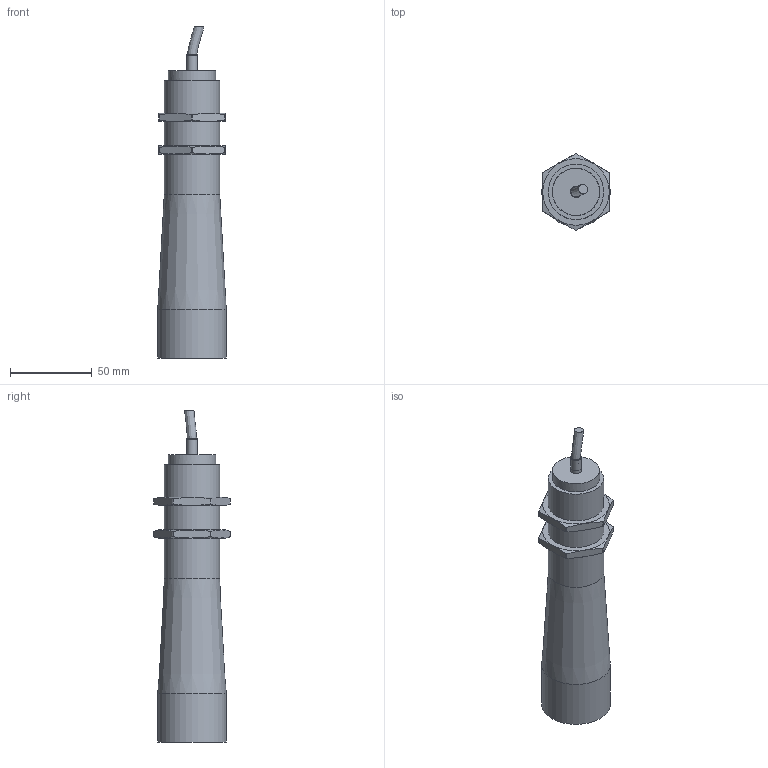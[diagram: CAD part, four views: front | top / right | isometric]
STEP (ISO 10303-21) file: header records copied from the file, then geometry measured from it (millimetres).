
FILE_DESCRIPTION((''),'2;1');
FILE_NAME('Q:\Konstruktion\E-Mail-Zeichnungen\STEP\KL-M34_42_111_00.stp','2010-09-20T11:32:44',('GuentherB'),(''),'Autodesk Inventor 2009','Autodesk Inventor 2009','');
FILE_SCHEMA(('AUTOMOTIVE_DESIGN { 1 0 10303 214 1 1 1 1 }'));
Length unit declared in the file: millimetre
Products named in the file (1): Bauteil3
Bounding box: 42 x 47.03 x 203.53 mm (x, y, z)
Volume: 194135.2 mm3; surface area: 28407.5 mm2
Topology: 2 solids, 2 shells, 65 faces, 153 edges, 103 vertices
Faces by surface type: plane 29, cylinder 23, cone 8, bspline 5
Full cylindrical faces by diameter (mm): 5.7 x1, 6 x1, 6.6 x1, 28.9 x1, 34 x3, 40 x1, 42 x1
Entity records: 7040 total; most frequent: CARTESIAN_POINT 5656, ORIENTED_EDGE 252, DIRECTION 235, EDGE_CURVE 126, AXIS2_PLACEMENT_3D 101, VERTEX_POINT 95, EDGE_LOOP 95, FACE_OUTER_BOUND 65
